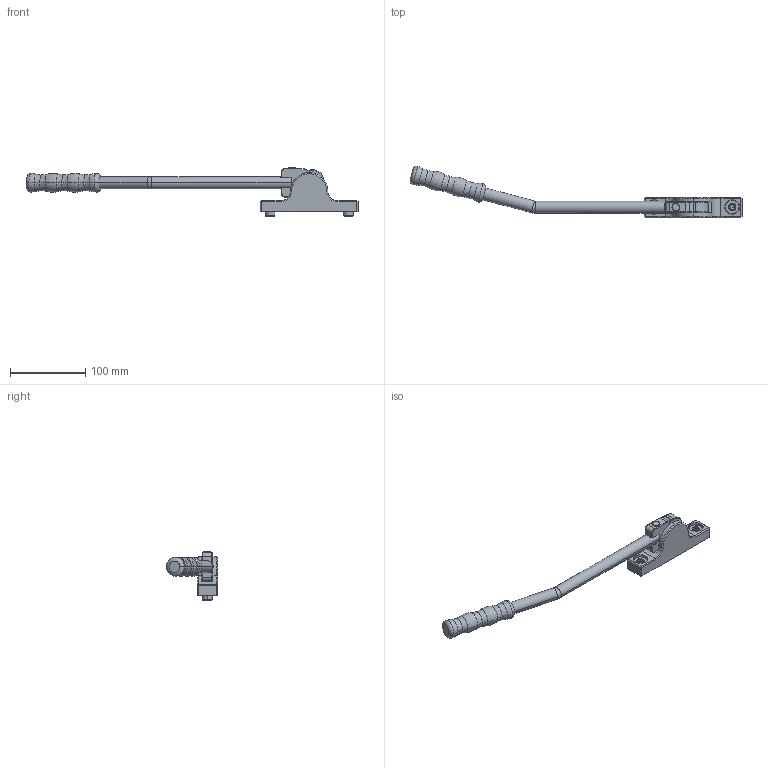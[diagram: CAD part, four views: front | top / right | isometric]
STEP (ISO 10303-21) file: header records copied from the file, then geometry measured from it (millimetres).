
FILE_DESCRIPTION (( 'STEP AP203' ), '1' );
FILE_NAME ('45452.STEP', '2016-10-19T06:38:37', ( '' ), ( '' ), 'SwSTEP 2.0', 'SolidWorks 2015', '' );
FILE_SCHEMA (( 'CONFIG_CONTROL_DESIGN' ));
Length unit declared in the file: millimetre
Products named in the file (3): 45452; 44400
Assembly tree (2 placements, depth 2):
  45452
    45452
    44400
Bounding box: 441.31 x 68.68 x 64.55 mm (x, y, z)
Volume: 193151.2 mm3; surface area: 53064.5 mm2
Topology: 8 solids, 8 shells, 279 faces, 627 edges, 375 vertices
Faces by surface type: plane 98, cylinder 75, cone 51, torus 46, bspline 9
Entity records: 9976 total; most frequent: CARTESIAN_POINT 3445, DIRECTION 1381, ORIENTED_EDGE 1242, EDGE_CURVE 621, AXIS2_PLACEMENT_3D 553, VERTEX_POINT 375, EDGE_LOOP 300, FACE_OUTER_BOUND 279
